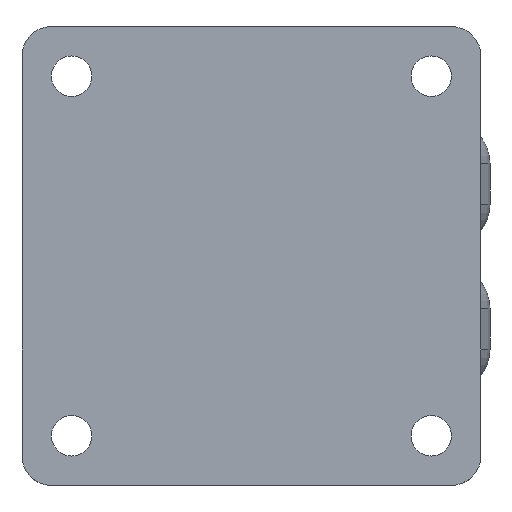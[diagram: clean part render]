
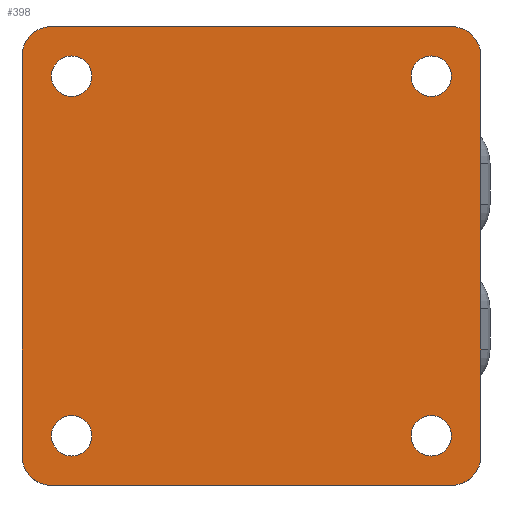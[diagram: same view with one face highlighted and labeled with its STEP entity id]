
A CAD part, top view. The second image highlights one B-rep face of the part: STEP entity #398.
In plain terms, the highlighted planar face has unit normal (0, 0, 1).
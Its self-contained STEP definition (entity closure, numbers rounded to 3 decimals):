
#398=ADVANCED_FACE('',(#1204,#1205,#1206,#1207,#1208),#697,.F.);
#697=PLANE('',#5433);
#1204=FACE_BOUND('',#1390,.T.);
#1205=FACE_BOUND('',#1391,.T.);
#1206=FACE_BOUND('',#1392,.T.);
#1207=FACE_BOUND('',#1393,.T.);
#1208=FACE_BOUND('',#1394,.T.);
#1390=EDGE_LOOP('',(#2148,#2149,#2150,#2151,#2152,#2153,#2154,#2155));
#1391=EDGE_LOOP('',(#2156));
#1392=EDGE_LOOP('',(#2157));
#1393=EDGE_LOOP('',(#2158));
#1394=EDGE_LOOP('',(#2159));
#1801=CIRCLE('',#5425,8.);
#1802=CIRCLE('',#5426,8.);
#1803=CIRCLE('',#5427,8.);
#1804=CIRCLE('',#5428,8.);
#1805=CIRCLE('',#5429,5.5);
#1806=CIRCLE('',#5430,5.5);
#1807=CIRCLE('',#5431,5.5);
#1808=CIRCLE('',#5432,5.5);
#2148=ORIENTED_EDGE('',*,*,#4113,.T.);
#2149=ORIENTED_EDGE('',*,*,#4114,.T.);
#2150=ORIENTED_EDGE('',*,*,#4115,.T.);
#2151=ORIENTED_EDGE('',*,*,#4116,.T.);
#2152=ORIENTED_EDGE('',*,*,#4117,.T.);
#2153=ORIENTED_EDGE('',*,*,#4118,.T.);
#2154=ORIENTED_EDGE('',*,*,#4119,.T.);
#2155=ORIENTED_EDGE('',*,*,#4120,.T.);
#2156=ORIENTED_EDGE('',*,*,#4121,.T.);
#2157=ORIENTED_EDGE('',*,*,#4122,.T.);
#2158=ORIENTED_EDGE('',*,*,#4123,.T.);
#2159=ORIENTED_EDGE('',*,*,#4124,.T.);
#3582=VERTEX_POINT('',#8136);
#3583=VERTEX_POINT('',#8137);
#3584=VERTEX_POINT('',#8139);
#3585=VERTEX_POINT('',#8141);
#3586=VERTEX_POINT('',#8143);
#3587=VERTEX_POINT('',#8145);
#3588=VERTEX_POINT('',#8147);
#3589=VERTEX_POINT('',#8149);
#3590=VERTEX_POINT('',#8152);
#3591=VERTEX_POINT('',#8154);
#3592=VERTEX_POINT('',#8156);
#3593=VERTEX_POINT('',#8158);
#4113=EDGE_CURVE('',#3582,#3583,#4698,.T.);
#4114=EDGE_CURVE('',#3583,#3584,#1801,.T.);
#4115=EDGE_CURVE('',#3584,#3585,#4699,.T.);
#4116=EDGE_CURVE('',#3585,#3586,#1802,.T.);
#4117=EDGE_CURVE('',#3586,#3587,#4700,.T.);
#4118=EDGE_CURVE('',#3587,#3588,#1803,.T.);
#4119=EDGE_CURVE('',#3588,#3589,#4701,.T.);
#4120=EDGE_CURVE('',#3589,#3582,#1804,.T.);
#4121=EDGE_CURVE('',#3590,#3590,#1805,.T.);
#4122=EDGE_CURVE('',#3591,#3591,#1806,.T.);
#4123=EDGE_CURVE('',#3592,#3592,#1807,.T.);
#4124=EDGE_CURVE('',#3593,#3593,#1808,.T.);
#4698=LINE('',#8135,#5047);
#4699=LINE('',#8140,#5048);
#4700=LINE('',#8144,#5049);
#4701=LINE('',#8148,#5050);
#5047=VECTOR('',#6011,1.);
#5048=VECTOR('',#6014,1.);
#5049=VECTOR('',#6017,1.);
#5050=VECTOR('',#6020,1.);
#5425=AXIS2_PLACEMENT_3D('',#8138,#6012,#6013);
#5426=AXIS2_PLACEMENT_3D('',#8142,#6015,#6016);
#5427=AXIS2_PLACEMENT_3D('',#8146,#6018,#6019);
#5428=AXIS2_PLACEMENT_3D('',#8150,#6021,#6022);
#5429=AXIS2_PLACEMENT_3D('',#8151,#6023,#6024);
#5430=AXIS2_PLACEMENT_3D('',#8153,#6025,#6026);
#5431=AXIS2_PLACEMENT_3D('',#8155,#6027,#6028);
#5432=AXIS2_PLACEMENT_3D('',#8157,#6029,#6030);
#5433=AXIS2_PLACEMENT_3D('',#8159,#6031,#6032);
#6011=DIRECTION('',(1.,0.,0.));
#6012=DIRECTION('',(0.,0.,1.));
#6013=DIRECTION('',(0.,1.,0.));
#6014=DIRECTION('',(0.,1.,0.));
#6015=DIRECTION('',(0.,0.,1.));
#6016=DIRECTION('',(0.,1.,0.));
#6017=DIRECTION('',(-1.,0.,0.));
#6018=DIRECTION('',(0.,0.,1.));
#6019=DIRECTION('',(0.,1.,0.));
#6020=DIRECTION('',(0.,-1.,0.));
#6021=DIRECTION('',(0.,0.,1.));
#6022=DIRECTION('',(0.,1.,0.));
#6023=DIRECTION('',(0.,0.,-1.));
#6024=DIRECTION('',(0.,1.,0.));
#6025=DIRECTION('',(0.,0.,-1.));
#6026=DIRECTION('',(0.,1.,0.));
#6027=DIRECTION('',(0.,0.,-1.));
#6028=DIRECTION('',(0.,1.,0.));
#6029=DIRECTION('',(0.,0.,-1.));
#6030=DIRECTION('',(0.,1.,0.));
#6031=DIRECTION('',(0.,0.,-1.));
#6032=DIRECTION('',(0.,1.,0.));
#8135=CARTESIAN_POINT('',(-62.5,-62.5,0.));
#8136=CARTESIAN_POINT('',(-54.5,-62.5,0.));
#8137=CARTESIAN_POINT('',(54.5,-62.5,0.));
#8138=CARTESIAN_POINT('',(54.5,-54.5,0.));
#8139=CARTESIAN_POINT('',(62.5,-54.5,0.));
#8140=CARTESIAN_POINT('',(62.5,-62.5,0.));
#8141=CARTESIAN_POINT('',(62.5,54.5,0.));
#8142=CARTESIAN_POINT('',(54.5,54.5,0.));
#8143=CARTESIAN_POINT('',(54.5,62.5,0.));
#8144=CARTESIAN_POINT('',(62.5,62.5,0.));
#8145=CARTESIAN_POINT('',(-54.5,62.5,0.));
#8146=CARTESIAN_POINT('',(-54.5,54.5,0.));
#8147=CARTESIAN_POINT('',(-62.5,54.5,0.));
#8148=CARTESIAN_POINT('',(-62.5,62.5,0.));
#8149=CARTESIAN_POINT('',(-62.5,-54.5,0.));
#8150=CARTESIAN_POINT('',(-54.5,-54.5,0.));
#8151=CARTESIAN_POINT('',(49.,-49.,0.));
#8152=CARTESIAN_POINT('',(49.,-43.5,0.));
#8153=CARTESIAN_POINT('',(-49.,-49.,0.));
#8154=CARTESIAN_POINT('',(-49.,-43.5,0.));
#8155=CARTESIAN_POINT('',(-49.,49.,0.));
#8156=CARTESIAN_POINT('',(-49.,54.5,0.));
#8157=CARTESIAN_POINT('',(49.,49.,0.));
#8158=CARTESIAN_POINT('',(49.,54.5,0.));
#8159=CARTESIAN_POINT('',(49.,-49.,0.));
